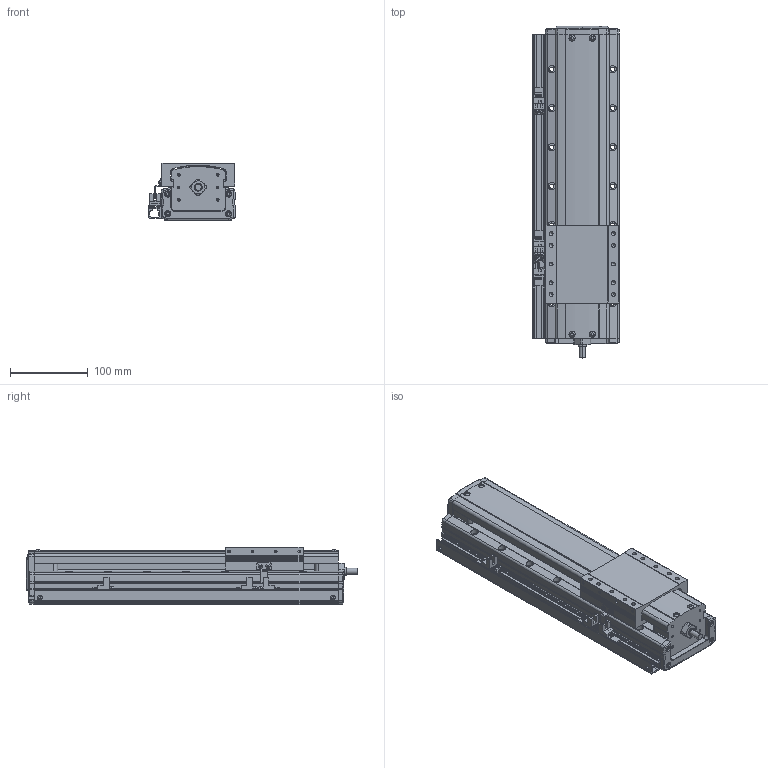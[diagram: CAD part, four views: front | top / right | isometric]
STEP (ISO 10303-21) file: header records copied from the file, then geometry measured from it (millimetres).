
FILE_DESCRIPTION(('STEP AP214'),'1');
FILE_NAME('Z:/Web/3D/PSA95/STP/PSA95-200 (3D)/PSA95ㅁㅁ-200+3SL.stp','2014-07-02T23:41:40',(' '),(' '),'Spatial InterOp 3D',' ',' ');
FILE_SCHEMA(('automotive_design'));
Length unit declared in the file: millimetre
Products named in the file (36): BASE; RRCV; 스크루 : Round - M4.0 x 10.0; 너트 : Square - M10.0 x 220.7419; RR1500; FRCV-090; 스크루 : Round - M4.0 x 6.0; SLBL-PA90; EE-SX674; SBK-SX674-352; 스크루 : Round - M3.0 x 6.0; M3.0 x 6.0; SRL-16x17-380L; SGD-PA95; 스크루 : Round - M3.0 x 8.0
Bounding box: 111 x 426 x 74 mm (x, y, z)
Volume: 2273623.8 mm3; surface area: 310657.5 mm2
Topology: 36 solids, 36 shells, 2240 faces, 5998 edges, 3868 vertices
Faces by surface type: plane 1356, cylinder 611, cone 185, sphere 50, bspline 24, torus 14
Entity records: 90217 total; most frequent: CARTESIAN_POINT 15089, DIRECTION 11838, ORIENTED_EDGE 11788, EDGE_CURVE 5894, LINE 4136, VECTOR 4136, VERTEX_POINT 3868, AXIS2_PLACEMENT_3D 3851
